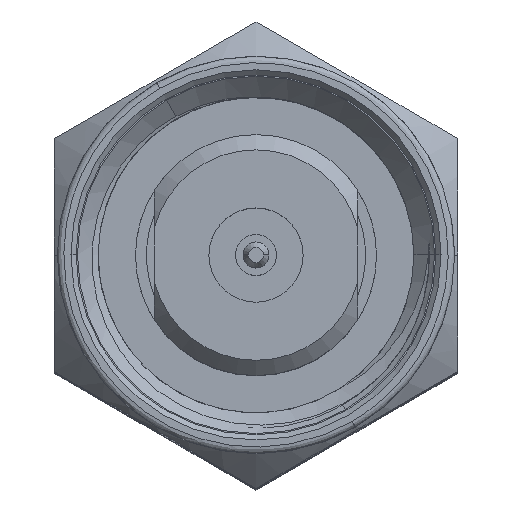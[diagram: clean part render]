
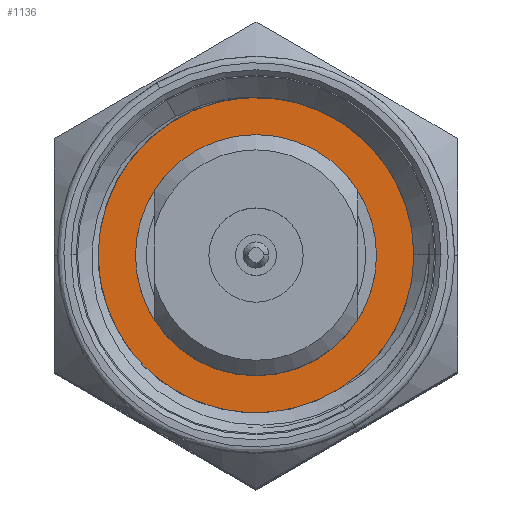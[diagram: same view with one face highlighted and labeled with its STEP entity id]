
A CAD part, top view. The second image highlights one B-rep face of the part: STEP entity #1136.
In plain terms, the highlighted planar face has unit normal (0, 0, 1).
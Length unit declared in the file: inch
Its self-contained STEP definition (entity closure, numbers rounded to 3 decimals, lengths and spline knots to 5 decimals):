
#885 = CARTESIAN_POINT ( 'NONE',  ( 0., 0., 0.12579 ) ) ;
#1136 = ADVANCED_FACE ( 'NONE', ( #4475, #13604 ), #6176, .F. ) ;
#1208 = DIRECTION ( 'NONE',  ( 0., 0., -1. ) ) ;
#1825 = CARTESIAN_POINT ( 'NONE',  ( -0.125, 0., 0.12579 ) ) ;
#2942 = DIRECTION ( 'NONE',  ( 0., 0., 1. ) ) ;
#3081 = DIRECTION ( 'NONE',  ( -1., 0., 0. ) ) ;
#3301 = CIRCLE ( 'NONE', #14512, 0.125 ) ;
#4034 = ORIENTED_EDGE ( 'NONE', *, *, #16648, .F. ) ;
#4475 = FACE_OUTER_BOUND ( 'NONE', #13118, .T. ) ;
#5005 = VERTEX_POINT ( 'NONE', #9523 ) ;
#5840 = CARTESIAN_POINT ( 'NONE',  ( 0., 0., 0.12579 ) ) ;
#6176 = PLANE ( 'NONE',  #16600 ) ;
#6624 = DIRECTION ( 'NONE',  ( 0., 0., -1. ) ) ;
#6734 = EDGE_CURVE ( 'NONE', #11167, #12844, #3301, .T. ) ;
#6890 = CARTESIAN_POINT ( 'NONE',  ( 0.09311, 0., 0.12579 ) ) ;
#6988 = DIRECTION ( 'NONE',  ( 0., 0., 1. ) ) ;
#7116 = DIRECTION ( 'NONE',  ( 1., 0., 0. ) ) ;
#8547 = AXIS2_PLACEMENT_3D ( 'NONE', #5840, #2942, #15257 ) ;
#8923 = AXIS2_PLACEMENT_3D ( 'NONE', #885, #6988, #19211 ) ;
#9252 = CIRCLE ( 'NONE', #8923, 0.09311 ) ;
#9498 = CIRCLE ( 'NONE', #8547, 0.09311 ) ;
#9523 = CARTESIAN_POINT ( 'NONE',  ( -0.09311, 0., 0.12579 ) ) ;
#9566 = ORIENTED_EDGE ( 'NONE', *, *, #11429, .F. ) ;
#10513 = CARTESIAN_POINT ( 'NONE',  ( 0., 0., 0.12579 ) ) ;
#11167 = VERTEX_POINT ( 'NONE', #1825 ) ;
#11429 = EDGE_CURVE ( 'NONE', #12796, #5005, #9252, .T. ) ;
#12272 = EDGE_CURVE ( 'NONE', #5005, #12796, #9498, .T. ) ;
#12294 = DIRECTION ( 'NONE',  ( 0., 0., -1. ) ) ;
#12536 = DIRECTION ( 'NONE',  ( 1., 0., 0. ) ) ;
#12796 = VERTEX_POINT ( 'NONE', #6890 ) ;
#12844 = VERTEX_POINT ( 'NONE', #15905 ) ;
#13118 = EDGE_LOOP ( 'NONE', ( #4034, #14022 ) ) ;
#13604 = FACE_BOUND ( 'NONE', #19648, .T. ) ;
#14022 = ORIENTED_EDGE ( 'NONE', *, *, #6734, .F. ) ;
#14512 = AXIS2_PLACEMENT_3D ( 'NONE', #10513, #1208, #7116 ) ;
#15257 = DIRECTION ( 'NONE',  ( 1., 0., 0. ) ) ;
#15300 = CARTESIAN_POINT ( 'NONE',  ( 0.09311, 0., 0.12579 ) ) ;
#15344 = CARTESIAN_POINT ( 'NONE',  ( 0., 0., 0.12579 ) ) ;
#15428 = AXIS2_PLACEMENT_3D ( 'NONE', #15344, #6624, #12536 ) ;
#15905 = CARTESIAN_POINT ( 'NONE',  ( 0.125, 0., 0.12579 ) ) ;
#16600 = AXIS2_PLACEMENT_3D ( 'NONE', #15300, #12294, #3081 ) ;
#16648 = EDGE_CURVE ( 'NONE', #12844, #11167, #16687, .T. ) ;
#16687 = CIRCLE ( 'NONE', #15428, 0.125 ) ;
#17807 = ORIENTED_EDGE ( 'NONE', *, *, #12272, .F. ) ;
#19211 = DIRECTION ( 'NONE',  ( 1., 0., 0. ) ) ;
#19648 = EDGE_LOOP ( 'NONE', ( #9566, #17807 ) ) ;
